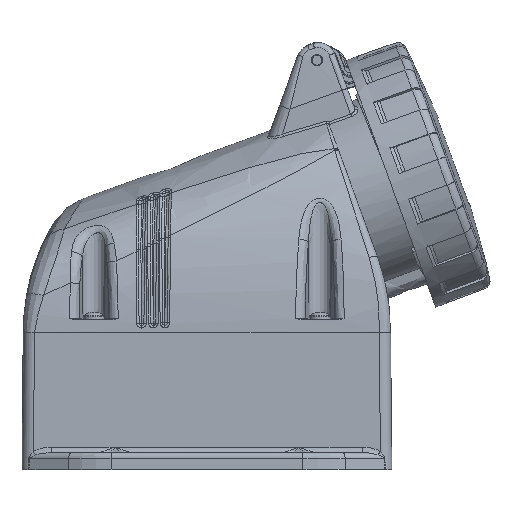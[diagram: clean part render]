
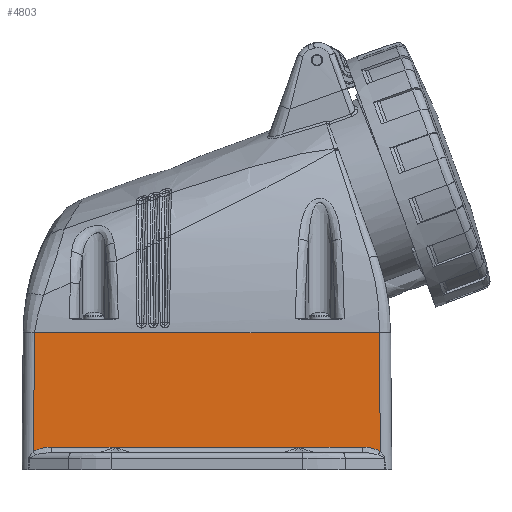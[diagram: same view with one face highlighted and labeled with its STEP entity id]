
A CAD part, left-side view. The second image highlights one B-rep face of the part: STEP entity #4803.
In plain terms, the highlighted planar face has unit normal (-1, 0, 0.009).
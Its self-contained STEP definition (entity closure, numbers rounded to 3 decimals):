
#3793=ELLIPSE('',#44079,8.,4.);
#3794=ELLIPSE('',#44080,8.,4.);
#4803=ADVANCED_FACE('',(#8237),#7199,.T.);
#7199=PLANE('',#44081);
#8237=FACE_OUTER_BOUND('',#10854,.T.);
#10854=EDGE_LOOP('',(#17937,#17938,#17939,#17940,#17941,#17942,#17943,#17944));
#17937=ORIENTED_EDGE('',*,*,#33521,.T.);
#17938=ORIENTED_EDGE('',*,*,#33517,.T.);
#17939=ORIENTED_EDGE('',*,*,#33522,.F.);
#17940=ORIENTED_EDGE('',*,*,#33523,.T.);
#17941=ORIENTED_EDGE('',*,*,#33524,.T.);
#17942=ORIENTED_EDGE('',*,*,#33525,.T.);
#17943=ORIENTED_EDGE('',*,*,#33526,.F.);
#17944=ORIENTED_EDGE('',*,*,#33527,.F.);
#29103=VERTEX_POINT('',#70546);
#29106=VERTEX_POINT('',#70564);
#29109=VERTEX_POINT('',#70589);
#29110=VERTEX_POINT('',#70591);
#29111=VERTEX_POINT('',#70593);
#29112=VERTEX_POINT('',#70595);
#29113=VERTEX_POINT('',#70597);
#29114=VERTEX_POINT('',#70599);
#33517=EDGE_CURVE('',#29103,#29106,#39125,.T.);
#33521=EDGE_CURVE('',#29109,#29103,#39127,.T.);
#33522=EDGE_CURVE('',#29110,#29106,#3793,.T.);
#33523=EDGE_CURVE('',#29110,#29111,#39128,.T.);
#33524=EDGE_CURVE('',#29111,#29112,#39129,.T.);
#33525=EDGE_CURVE('',#29112,#29113,#39130,.T.);
#33526=EDGE_CURVE('',#29114,#29113,#3794,.T.);
#33527=EDGE_CURVE('',#29109,#29114,#39131,.T.);
#39125=LINE('',#70565,#41504);
#39127=LINE('',#70588,#41506);
#39128=LINE('',#70592,#41507);
#39129=LINE('',#70594,#41508);
#39130=LINE('',#70596,#41509);
#39131=LINE('',#70600,#41510);
#41504=VECTOR('',#49111,1.);
#41506=VECTOR('',#49119,1.);
#41507=VECTOR('',#49122,1.);
#41508=VECTOR('',#49123,1.);
#41509=VECTOR('',#49124,1.);
#41510=VECTOR('',#49127,1.);
#44079=AXIS2_PLACEMENT_3D('',#70590,#49120,#49121);
#44080=AXIS2_PLACEMENT_3D('',#70598,#49125,#49126);
#44081=AXIS2_PLACEMENT_3D('',#70601,#49128,#49129);
#49111=DIRECTION('',(-0.009,0.009,-1.));
#49119=DIRECTION('',(0.,1.,0.));
#49120=DIRECTION('',(-1.,0.,0.009));
#49121=DIRECTION('',(0.,-1.,-0.005));
#49122=DIRECTION('',(0.,-1.,0.));
#49123=DIRECTION('',(0.,-1.,0.));
#49124=DIRECTION('',(0.,-1.,0.));
#49125=DIRECTION('',(-1.,0.,0.009));
#49126=DIRECTION('',(0.,1.,-0.005));
#49127=DIRECTION('',(-0.009,-0.009,-1.));
#49128=DIRECTION('',(-1.,0.,0.009));
#49129=DIRECTION('',(0.,-1.,0.));
#70546=CARTESIAN_POINT('',(-37.098,74.897,0.));
#70564=CARTESIAN_POINT('',(-37.465,75.265,-42.131));
#70565=CARTESIAN_POINT('',(-37.098,74.897,0.));
#70588=CARTESIAN_POINT('',(-37.098,-47.103,0.));
#70589=CARTESIAN_POINT('',(-37.098,-47.103,0.));
#70590=CARTESIAN_POINT('',(-37.486,68.808,-44.517));
#70591=CARTESIAN_POINT('',(-37.451,68.869,-40.517));
#70592=CARTESIAN_POINT('',(-37.451,68.869,-40.517));
#70593=CARTESIAN_POINT('',(-37.451,46.397,-40.517));
#70594=CARTESIAN_POINT('',(-37.451,46.397,-40.517));
#70595=CARTESIAN_POINT('',(-37.451,-18.603,-40.517));
#70596=CARTESIAN_POINT('',(-37.451,-18.603,-40.517));
#70597=CARTESIAN_POINT('',(-37.451,-41.074,-40.517));
#70598=CARTESIAN_POINT('',(-37.486,-41.014,-44.517));
#70599=CARTESIAN_POINT('',(-37.465,-47.471,-42.131));
#70600=CARTESIAN_POINT('',(-37.098,-47.103,0.));
#70601=CARTESIAN_POINT('',(-37.098,-51.531,0.005));
